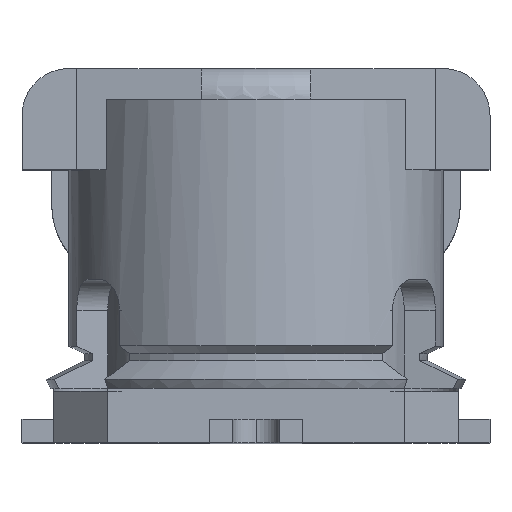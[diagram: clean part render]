
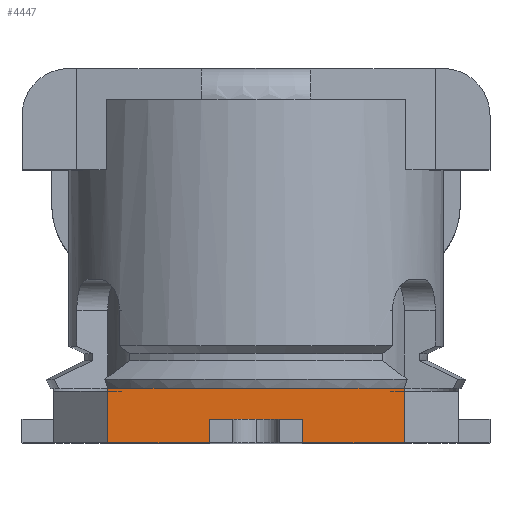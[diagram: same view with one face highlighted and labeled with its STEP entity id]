
A CAD part, top view. The second image highlights one B-rep face of the part: STEP entity #4447.
In plain terms, the highlighted planar face has unit normal (0, 0, 1).
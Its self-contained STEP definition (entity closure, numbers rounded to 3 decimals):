
#35 = VECTOR ( 'NONE', #12742, 1000. ) ;
#109 = VECTOR ( 'NONE', #7272, 1000. ) ;
#148 = EDGE_CURVE ( 'NONE', #5334, #2726, #11342, .T. ) ;
#175 = EDGE_CURVE ( 'NONE', #277, #5951, #9330, .T. ) ;
#277 = VERTEX_POINT ( 'NONE', #11613 ) ;
#1061 = DIRECTION ( 'NONE',  ( 0., -1., 0. ) ) ;
#1100 = VECTOR ( 'NONE', #2948, 1000. ) ;
#1451 = CARTESIAN_POINT ( 'NONE',  ( -0.3, 0., 1.3 ) ) ;
#1525 = PLANE ( 'NONE',  #11935 ) ;
#1528 = VECTOR ( 'NONE', #10542, 1000. ) ;
#2036 = ORIENTED_EDGE ( 'NONE', *, *, #11856, .F. ) ;
#2266 = DIRECTION ( 'NONE',  ( 1., 0., 0. ) ) ;
#2456 = ORIENTED_EDGE ( 'NONE', *, *, #2857, .F. ) ;
#2488 = DIRECTION ( 'NONE',  ( -1., 0., 0. ) ) ;
#2726 = VERTEX_POINT ( 'NONE', #12300 ) ;
#2825 = ORIENTED_EDGE ( 'NONE', *, *, #11813, .T. ) ;
#2837 = ORIENTED_EDGE ( 'NONE', *, *, #7666, .T. ) ;
#2857 = EDGE_CURVE ( 'NONE', #4332, #2726, #11695, .T. ) ;
#2877 = LINE ( 'NONE', #9571, #6398 ) ;
#2948 = DIRECTION ( 'NONE',  ( -1., 0., 0. ) ) ;
#2977 = ORIENTED_EDGE ( 'NONE', *, *, #7648, .F. ) ;
#3172 = VERTEX_POINT ( 'NONE', #8363 ) ;
#3214 = CARTESIAN_POINT ( 'NONE',  ( 0.3, 0.15, 1.3 ) ) ;
#3498 = EDGE_CURVE ( 'NONE', #5901, #5334, #6195, .T. ) ;
#3897 = CARTESIAN_POINT ( 'NONE',  ( 0., 0.35, 1.3 ) ) ;
#4092 = CARTESIAN_POINT ( 'NONE',  ( -0.3, 0.15, 1.3 ) ) ;
#4330 = VERTEX_POINT ( 'NONE', #12408 ) ;
#4332 = VERTEX_POINT ( 'NONE', #3214 ) ;
#4373 = LINE ( 'NONE', #10334, #1528 ) ;
#4404 = ORIENTED_EDGE ( 'NONE', *, *, #3498, .T. ) ;
#4421 = CARTESIAN_POINT ( 'NONE',  ( 0.95, 0.35, 1.3 ) ) ;
#4447 = ADVANCED_FACE ( 'NONE', ( #12675 ), #1525, .F. ) ;
#4555 = DIRECTION ( 'NONE',  ( -1., 0., 0. ) ) ;
#4834 = CARTESIAN_POINT ( 'NONE',  ( 0.95, 0., 1.3 ) ) ;
#4962 = LINE ( 'NONE', #11207, #8332 ) ;
#5334 = VERTEX_POINT ( 'NONE', #1451 ) ;
#5511 = ORIENTED_EDGE ( 'NONE', *, *, #175, .T. ) ;
#5708 = EDGE_LOOP ( 'NONE', ( #10997, #2456, #9889, #5511, #2036, #2977, #2825, #13069, #2837, #4404 ) ) ;
#5740 = VECTOR ( 'NONE', #1061, 1000. ) ;
#5811 = CARTESIAN_POINT ( 'NONE',  ( -0.95, 0.35, 1.3 ) ) ;
#5901 = VERTEX_POINT ( 'NONE', #8053 ) ;
#5951 = VERTEX_POINT ( 'NONE', #4834 ) ;
#6195 = LINE ( 'NONE', #10556, #109 ) ;
#6236 = DIRECTION ( 'NONE',  ( 0., 1., 0. ) ) ;
#6398 = VECTOR ( 'NONE', #11210, 1000. ) ;
#6518 = EDGE_CURVE ( 'NONE', #4332, #277, #4962, .T. ) ;
#7042 = LINE ( 'NONE', #8188, #5740 ) ;
#7272 = DIRECTION ( 'NONE',  ( 1., 0., 0. ) ) ;
#7382 = CARTESIAN_POINT ( 'NONE',  ( 0.95, 0., 1.3 ) ) ;
#7582 = CARTESIAN_POINT ( 'NONE',  ( 0.95, 0.35, 1.3 ) ) ;
#7648 = EDGE_CURVE ( 'NONE', #3172, #12141, #2877, .T. ) ;
#7666 = EDGE_CURVE ( 'NONE', #9924, #5901, #7042, .T. ) ;
#8053 = CARTESIAN_POINT ( 'NONE',  ( -0.95, 0., 1.3 ) ) ;
#8188 = CARTESIAN_POINT ( 'NONE',  ( -0.95, 0.35, 1.3 ) ) ;
#8332 = VECTOR ( 'NONE', #9058, 1000. ) ;
#8363 = CARTESIAN_POINT ( 'NONE',  ( 0.21, 0.35, 1.3 ) ) ;
#9058 = DIRECTION ( 'NONE',  ( 0., -1., 0. ) ) ;
#9330 = LINE ( 'NONE', #7382, #9729 ) ;
#9556 = CARTESIAN_POINT ( 'NONE',  ( 0., 0.15, 1.3 ) ) ;
#9571 = CARTESIAN_POINT ( 'NONE',  ( 0.95, 0.35, 1.3 ) ) ;
#9729 = VECTOR ( 'NONE', #2266, 1000. ) ;
#9762 = VECTOR ( 'NONE', #2488, 1000. ) ;
#9889 = ORIENTED_EDGE ( 'NONE', *, *, #6518, .T. ) ;
#9924 = VERTEX_POINT ( 'NONE', #5811 ) ;
#10334 = CARTESIAN_POINT ( 'NONE',  ( 0.95, 0.35, 1.3 ) ) ;
#10542 = DIRECTION ( 'NONE',  ( 0., -1., 0. ) ) ;
#10556 = CARTESIAN_POINT ( 'NONE',  ( 0.95, 0., 1.3 ) ) ;
#10997 = ORIENTED_EDGE ( 'NONE', *, *, #148, .T. ) ;
#11207 = CARTESIAN_POINT ( 'NONE',  ( 0.3, 0.15, 1.3 ) ) ;
#11210 = DIRECTION ( 'NONE',  ( 1., 0., 0. ) ) ;
#11342 = LINE ( 'NONE', #4092, #12069 ) ;
#11613 = CARTESIAN_POINT ( 'NONE',  ( 0.3, 0., 1.3 ) ) ;
#11674 = DIRECTION ( 'NONE',  ( 0., 0., -1. ) ) ;
#11695 = LINE ( 'NONE', #9556, #9762 ) ;
#11813 = EDGE_CURVE ( 'NONE', #3172, #4330, #13087, .T. ) ;
#11856 = EDGE_CURVE ( 'NONE', #12141, #5951, #4373, .T. ) ;
#11935 = AXIS2_PLACEMENT_3D ( 'NONE', #7582, #11674, #4555 ) ;
#12069 = VECTOR ( 'NONE', #6236, 1000. ) ;
#12141 = VERTEX_POINT ( 'NONE', #13002 ) ;
#12300 = CARTESIAN_POINT ( 'NONE',  ( -0.3, 0.15, 1.3 ) ) ;
#12384 = EDGE_CURVE ( 'NONE', #9924, #4330, #12537, .T. ) ;
#12408 = CARTESIAN_POINT ( 'NONE',  ( -0.21, 0.35, 1.3 ) ) ;
#12537 = LINE ( 'NONE', #4421, #35 ) ;
#12675 = FACE_OUTER_BOUND ( 'NONE', #5708, .T. ) ;
#12742 = DIRECTION ( 'NONE',  ( 1., 0., 0. ) ) ;
#13002 = CARTESIAN_POINT ( 'NONE',  ( 0.95, 0.35, 1.3 ) ) ;
#13069 = ORIENTED_EDGE ( 'NONE', *, *, #12384, .F. ) ;
#13087 = LINE ( 'NONE', #3897, #1100 ) ;
